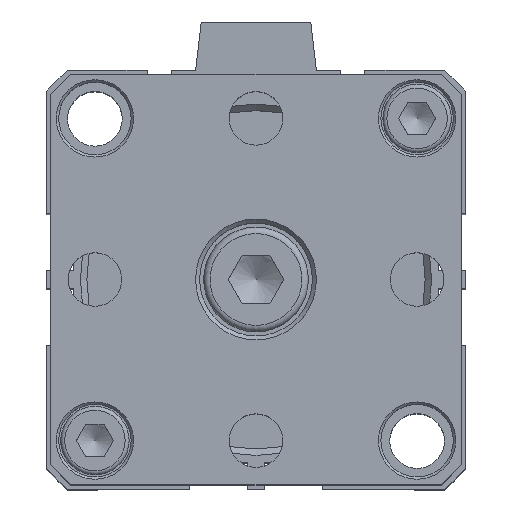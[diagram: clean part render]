
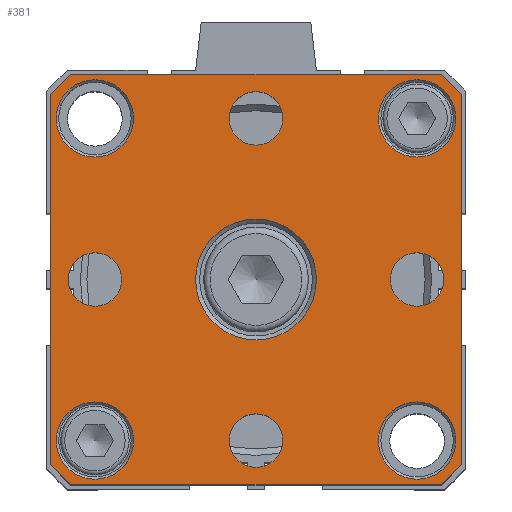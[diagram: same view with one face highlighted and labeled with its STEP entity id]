
A CAD part, top view. The second image highlights one B-rep face of the part: STEP entity #381.
In plain terms, the highlighted planar face has unit normal (0, 0, 1).
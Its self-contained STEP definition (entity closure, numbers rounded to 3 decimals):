
#207=CARTESIAN_POINT('',(25.398,21.555,76.1));
#208=VERTEX_POINT('',#207);
#209=CARTESIAN_POINT('',(20.598,21.555,76.1));
#210=DIRECTION('',(0.0,0.0,1.0));
#211=DIRECTION('',(-1.0,0.0,0.0));
#212=AXIS2_PLACEMENT_3D('',#209,#210,#211);
#213=CIRCLE('',#212,4.8);
#214=EDGE_CURVE('',#208,#208,#213,.T.);
#219=CARTESIAN_POINT('',(0.598,1.555,76.1));
#220=DIRECTION('',(0.0,0.0,1.0));
#221=DIRECTION('',(1.0,0.0,0.0));
#222=AXIS2_PLACEMENT_3D('',#219,#220,#221);
#223=PLANE('',#222);
#224=CARTESIAN_POINT('',(-24.902,24.555,76.1));
#225=VERTEX_POINT('',#224);
#226=CARTESIAN_POINT('',(-22.402,27.055,76.1));
#227=VERTEX_POINT('',#226);
#228=CARTESIAN_POINT('',(-24.902,24.555,76.1));
#229=DIRECTION('',(0.707,0.707,0.0));
#230=VECTOR('',#229,3.536);
#231=LINE('',#228,#230);
#232=EDGE_CURVE('',#225,#227,#231,.T.);
#233=ORIENTED_EDGE('',*,*,#232,.F.);
#234=CARTESIAN_POINT('',(-24.902,-21.445,76.1));
#235=VERTEX_POINT('',#234);
#236=CARTESIAN_POINT('',(-24.902,-21.445,76.1));
#237=DIRECTION('',(0.0,1.0,0.0));
#238=VECTOR('',#237,46.);
#239=LINE('',#236,#238);
#240=EDGE_CURVE('',#235,#225,#239,.T.);
#241=ORIENTED_EDGE('',*,*,#240,.F.);
#242=CARTESIAN_POINT('',(-22.402,-23.945,76.1));
#243=VERTEX_POINT('',#242);
#244=CARTESIAN_POINT('',(-22.402,-23.945,76.1));
#245=DIRECTION('',(-0.707,0.707,0.0));
#246=VECTOR('',#245,3.536);
#247=LINE('',#244,#246);
#248=EDGE_CURVE('',#243,#235,#247,.T.);
#249=ORIENTED_EDGE('',*,*,#248,.F.);
#250=CARTESIAN_POINT('',(23.598,-23.945,76.1));
#251=VERTEX_POINT('',#250);
#252=CARTESIAN_POINT('',(23.598,-23.945,76.1));
#253=DIRECTION('',(-1.0,0.0,0.0));
#254=VECTOR('',#253,46.);
#255=LINE('',#252,#254);
#256=EDGE_CURVE('',#251,#243,#255,.T.);
#257=ORIENTED_EDGE('',*,*,#256,.F.);
#258=CARTESIAN_POINT('',(26.098,-21.445,76.1));
#259=VERTEX_POINT('',#258);
#260=CARTESIAN_POINT('',(26.098,-21.445,76.1));
#261=DIRECTION('',(-0.707,-0.707,0.0));
#262=VECTOR('',#261,3.536);
#263=LINE('',#260,#262);
#264=EDGE_CURVE('',#259,#251,#263,.T.);
#265=ORIENTED_EDGE('',*,*,#264,.F.);
#266=CARTESIAN_POINT('',(26.098,24.555,76.1));
#267=VERTEX_POINT('',#266);
#268=CARTESIAN_POINT('',(26.098,24.555,76.1));
#269=DIRECTION('',(0.0,-1.0,0.0));
#270=VECTOR('',#269,46.);
#271=LINE('',#268,#270);
#272=EDGE_CURVE('',#267,#259,#271,.T.);
#273=ORIENTED_EDGE('',*,*,#272,.F.);
#274=CARTESIAN_POINT('',(23.598,27.055,76.1));
#275=VERTEX_POINT('',#274);
#276=CARTESIAN_POINT('',(23.598,27.055,76.1));
#277=DIRECTION('',(0.707,-0.707,0.0));
#278=VECTOR('',#277,3.536);
#279=LINE('',#276,#278);
#280=EDGE_CURVE('',#275,#267,#279,.T.);
#281=ORIENTED_EDGE('',*,*,#280,.F.);
#282=CARTESIAN_POINT('',(-22.402,27.055,76.1));
#283=DIRECTION('',(1.0,0.0,0.0));
#284=VECTOR('',#283,46.);
#285=LINE('',#282,#284);
#286=EDGE_CURVE('',#227,#275,#285,.T.);
#287=ORIENTED_EDGE('',*,*,#286,.F.);
#288=EDGE_LOOP('',(#233,#241,#249,#257,#265,#273,#281,#287));
#289=FACE_OUTER_BOUND('',#288,.T.);
#290=CARTESIAN_POINT('',(25.398,-18.445,76.1));
#291=VERTEX_POINT('',#290);
#292=CARTESIAN_POINT('',(20.598,-18.445,76.1));
#293=DIRECTION('',(0.0,0.0,1.0));
#294=DIRECTION('',(-1.0,0.0,0.0));
#295=AXIS2_PLACEMENT_3D('',#292,#293,#294);
#296=CIRCLE('',#295,4.8);
#297=EDGE_CURVE('',#291,#291,#296,.T.);
#298=ORIENTED_EDGE('',*,*,#297,.F.);
#299=EDGE_LOOP('',(#298));
#300=FACE_BOUND('',#299,.T.);
#301=CARTESIAN_POINT('',(-14.602,21.555,76.1));
#302=VERTEX_POINT('',#301);
#303=CARTESIAN_POINT('',(-19.402,21.555,76.1));
#304=DIRECTION('',(0.0,0.0,1.0));
#305=DIRECTION('',(-1.0,0.0,0.0));
#306=AXIS2_PLACEMENT_3D('',#303,#304,#305);
#307=CIRCLE('',#306,4.8);
#308=EDGE_CURVE('',#302,#302,#307,.T.);
#309=ORIENTED_EDGE('',*,*,#308,.F.);
#310=EDGE_LOOP('',(#309));
#311=FACE_BOUND('',#310,.T.);
#312=CARTESIAN_POINT('',(3.922,21.555,76.1));
#313=VERTEX_POINT('',#312);
#314=CARTESIAN_POINT('',(0.598,21.555,76.1));
#315=DIRECTION('',(0.0,0.0,-1.0));
#316=DIRECTION('',(1.0,0.0,0.0));
#317=AXIS2_PLACEMENT_3D('',#314,#315,#316);
#318=CIRCLE('',#317,3.324);
#319=EDGE_CURVE('',#313,#313,#318,.T.);
#320=ORIENTED_EDGE('',*,*,#319,.T.);
#321=EDGE_LOOP('',(#320));
#322=FACE_BOUND('',#321,.T.);
#323=CARTESIAN_POINT('',(-16.078,1.555,76.1));
#324=VERTEX_POINT('',#323);
#325=CARTESIAN_POINT('',(-19.402,1.555,76.1));
#326=DIRECTION('',(0.0,0.0,-1.0));
#327=DIRECTION('',(1.0,0.0,0.0));
#328=AXIS2_PLACEMENT_3D('',#325,#326,#327);
#329=CIRCLE('',#328,3.324);
#330=EDGE_CURVE('',#324,#324,#329,.T.);
#331=ORIENTED_EDGE('',*,*,#330,.T.);
#332=EDGE_LOOP('',(#331));
#333=FACE_BOUND('',#332,.T.);
#334=CARTESIAN_POINT('',(3.922,-18.445,76.1));
#335=VERTEX_POINT('',#334);
#336=CARTESIAN_POINT('',(0.598,-18.445,76.1));
#337=DIRECTION('',(0.0,0.0,-1.0));
#338=DIRECTION('',(1.0,0.0,0.0));
#339=AXIS2_PLACEMENT_3D('',#336,#337,#338);
#340=CIRCLE('',#339,3.324);
#341=EDGE_CURVE('',#335,#335,#340,.T.);
#342=ORIENTED_EDGE('',*,*,#341,.T.);
#343=EDGE_LOOP('',(#342));
#344=FACE_BOUND('',#343,.T.);
#345=CARTESIAN_POINT('',(23.922,1.555,76.1));
#346=VERTEX_POINT('',#345);
#347=CARTESIAN_POINT('',(20.598,1.555,76.1));
#348=DIRECTION('',(0.0,0.0,-1.0));
#349=DIRECTION('',(1.0,0.0,0.0));
#350=AXIS2_PLACEMENT_3D('',#347,#348,#349);
#351=CIRCLE('',#350,3.324);
#352=EDGE_CURVE('',#346,#346,#351,.T.);
#353=ORIENTED_EDGE('',*,*,#352,.T.);
#354=EDGE_LOOP('',(#353));
#355=FACE_BOUND('',#354,.T.);
#356=CARTESIAN_POINT('',(8.098,1.555,76.1));
#357=VERTEX_POINT('',#356);
#358=CARTESIAN_POINT('',(0.598,1.555,76.1));
#359=DIRECTION('',(0.0,0.0,1.0));
#360=DIRECTION('',(-1.0,0.0,0.0));
#361=AXIS2_PLACEMENT_3D('',#358,#359,#360);
#362=CIRCLE('',#361,7.5);
#363=EDGE_CURVE('',#357,#357,#362,.T.);
#364=ORIENTED_EDGE('',*,*,#363,.F.);
#365=EDGE_LOOP('',(#364));
#366=FACE_BOUND('',#365,.T.);
#367=CARTESIAN_POINT('',(-14.602,-18.445,76.1));
#368=VERTEX_POINT('',#367);
#369=CARTESIAN_POINT('',(-19.402,-18.445,76.1));
#370=DIRECTION('',(0.0,0.0,1.0));
#371=DIRECTION('',(-1.0,0.0,0.0));
#372=AXIS2_PLACEMENT_3D('',#369,#370,#371);
#373=CIRCLE('',#372,4.8);
#374=EDGE_CURVE('',#368,#368,#373,.T.);
#375=ORIENTED_EDGE('',*,*,#374,.F.);
#376=EDGE_LOOP('',(#375));
#377=FACE_BOUND('',#376,.T.);
#378=ORIENTED_EDGE('',*,*,#214,.F.);
#379=EDGE_LOOP('',(#378));
#380=FACE_BOUND('',#379,.T.);
#381=ADVANCED_FACE('',(#289,#300,#311,#322,#333,#344,#355,#366,#377,#380),#223,.T.);
